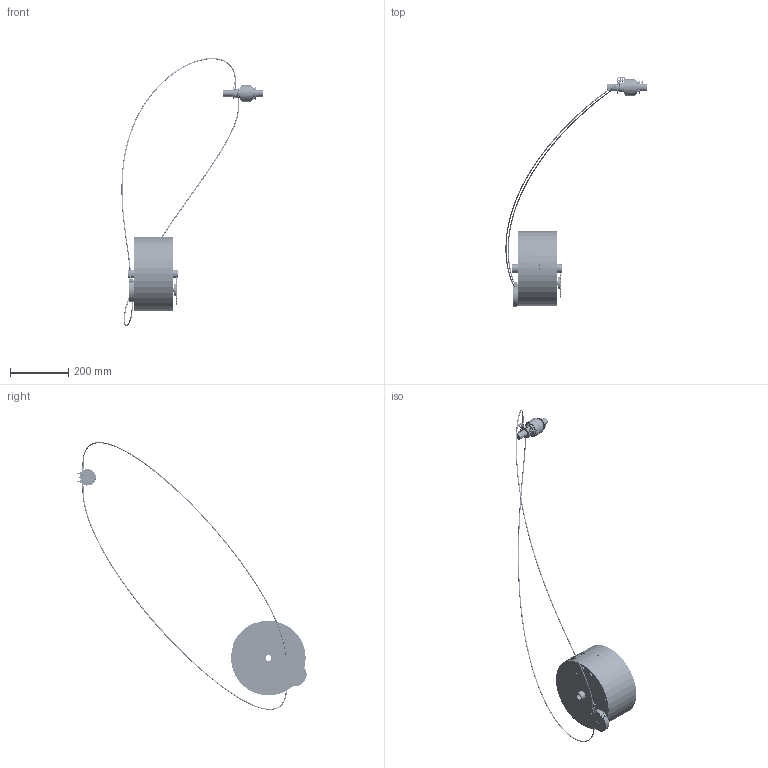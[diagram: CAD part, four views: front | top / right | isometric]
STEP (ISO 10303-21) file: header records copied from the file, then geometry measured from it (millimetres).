
FILE_DESCRIPTION(('Open CASCADE Model'),'2;1');
FILE_NAME('Open CASCADE Shape Model','2026-09-28T04:54:34',('Author'),( 'Open CASCADE'),'Open CASCADE STEP processor 7.9','Open CASCADE 7.9' ,'Unknown');
FILE_SCHEMA(('AUTOMOTIVE_DESIGN { 1 0 10303 214 1 1 1 1 }'));
Length unit declared in the file: millimetre
Products named in the file (294): R7_FULL_DUAL_CABLE_TRIAL_FAIL; left_housing_R7_drive_mount; right_housing_R6_local_ribs; motor_cooling_fin_1; motor_cooling_fin_2; motor_cooling_fin_3; motor_cooling_fin_4; motor_cooling_fin_5; motor_cooling_fin_6; crank_spindle; power_combining_shaft; input_shaft; intermediate_shaft_1_R6_B12_local_segment; output_shaft_R6_B12_local_segment; intermediate_shaft_2; torque_sensor_envelope; shift_encoder_envelope; motor_cable_gland; crank_one_way_clutch; motor_one_way_clutch; combining_to_input_key; dog_spline_key_4; A1_driver_27T_key; A2_driver_29T_key; A3_driver_31T_key; A4_driver_33T_key; B3_driver_56T_key; reduction_1_pinion_18T_key; reduction_1_gear_108T_key; reduction_2_pinion_18T_key; shift_drum_stop_ring_drive_key; combining_support_left; combining_support_right; A1_journal_bearing; A2_journal_bearing; A3_journal_bearing; A4_journal_bearing; B3_journal_bearing; O_left_bearing; O_right_bearing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
Assembly tree (293 placements, depth 2):
  R7_FULL_DUAL_CABLE_TRIAL_FAIL
    left_housing_R7_drive_mount
    right_housing_R6_local_ribs
    motor_cooling_fin_1
    motor_cooling_fin_2
    motor_cooling_fin_3
    motor_cooling_fin_4
    motor_cooling_fin_5
    motor_cooling_fin_6
    crank_spindle
    power_combining_shaft
    input_shaft
    intermediate_shaft_1_R6_B12_local_segment
    output_shaft_R6_B12_local_segment
    intermediate_shaft_2
    torque_sensor_envelope
    shift_encoder_envelope
    motor_cable_gland
    crank_one_way_clutch
    motor_one_way_clutch
    combining_to_input_key
    dog_spline_key_4
    A1_driver_27T_key
    A2_driver_29T_key
    A3_driver_31T_key
    A4_driver_33T_key
    B3_driver_56T_key
    reduction_1_pinion_18T_key
    reduction_1_gear_108T_key
    reduction_2_pinion_18T_key
    shift_drum_stop_ring_drive_key
    combining_support_left
    combining_support_right
    A1_journal_bearing
    A2_journal_bearing
    A3_journal_bearing
    A4_journal_bearing
    B3_journal_bearing
    O_left_bearing
    O_right_bearing
    I_left_bearing
    I_right_bearing
    U_left_bearing
    U_right_bearing
    N_left_bearing
    N_right_bearing
    drum_left_bearing
    drum_right_bearing
    dog_clutch_A12
    dog_clutch_A34
    dog_spline_hub_4
    dog_clutch_B3
    shift_fork_1
    shift_fork_2
    shift_fork_4
    A1_driver_27T
    A1_loose_27T
    A2_driver_29T
    A2_loose_25T
    A3_driver_31T
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Bounding box: 484.14 x 785.94 x 918.85 mm (x, y, z)
Volume: 2481251.2 mm3; surface area: 1156791.1 mm2
Topology: 295 solids, 295 shells, 8052 faces, 20901 edges, 13788 vertices
Faces by surface type: plane 3207, cylinder 2857, extrusion 1372, bspline 252, torus 150, cone 146, sphere 68
Full cylindrical faces by diameter (mm): 0.7 x3, 0.9 x4, 1 x1, 1.1 x12, 1.4 x9, 1.5 x1, 1.6 x7, 1.98 x3, 2 x19, 2.02 x8, 2.15 x3, 2.2 x7, 2.46 x4, 2.5 x4, 2.7 x4, 2.8 x1, 2.9 x2, 2.96 x4, 3 x10, 3.06 x5, 3.1 x2, 3.2 x10, 3.24 x2, 3.3 x12, 3.4 x2, 3.5 x1, 3.7 x1, 3.8 x1, 3.9 x8, 4 x8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
Entity records: 1114055 total; most frequent: CARTESIAN_POINT 693450, DIRECTION 73124, ORIENTED_EDGE 41684, PCURVE 41684, DEFINITIONAL_REPRESENTATION 41684, VECTOR 40511, LINE 39139, EDGE_CURVE 20842
